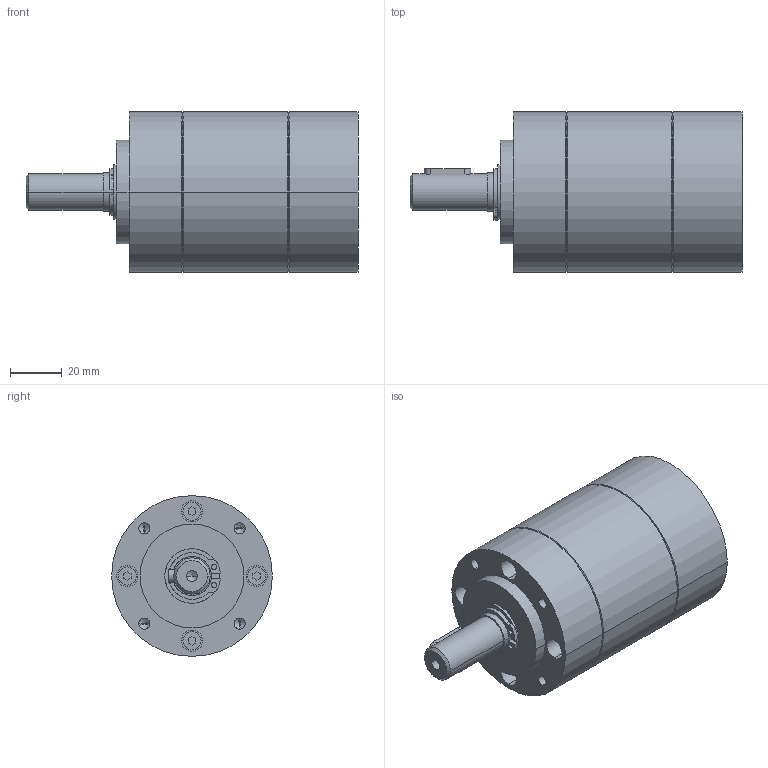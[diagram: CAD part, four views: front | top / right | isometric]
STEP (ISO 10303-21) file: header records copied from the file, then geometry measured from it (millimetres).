
FILE_DESCRIPTION((''),'2;1');
FILE_NAME('110501_GP62A-2ST','2017-11-21T',('mmagpetk'),(''),'CREO PARAMETRIC BY PTC INC, 2017020','CREO PARAMETRIC BY PTC INC, 2017020','');
FILE_SCHEMA(('CONFIG_CONTROL_DESIGN'));
Length unit declared in the file: millimetre
Products named in the file (1): 110501_GP62A-2ST
Bounding box: 128.1 x 62 x 62 mm (x, y, z)
Volume: 275805.3 mm3; surface area: 28008.1 mm2
Topology: 1 solids, 1 shells, 128 faces, 306 edges, 192 vertices
Faces by surface type: plane 55, cylinder 53, cone 20
Entity records: 5353 total; most frequent: DIRECTION 673, CARTESIAN_POINT 644, ORIENTED_EDGE 592, PRESENTATION_STYLE_ASSIGNMENT 353, STYLED_ITEM 297, CURVE_STYLE 296, EDGE_CURVE 296, AXIS2_PLACEMENT_3D 253
